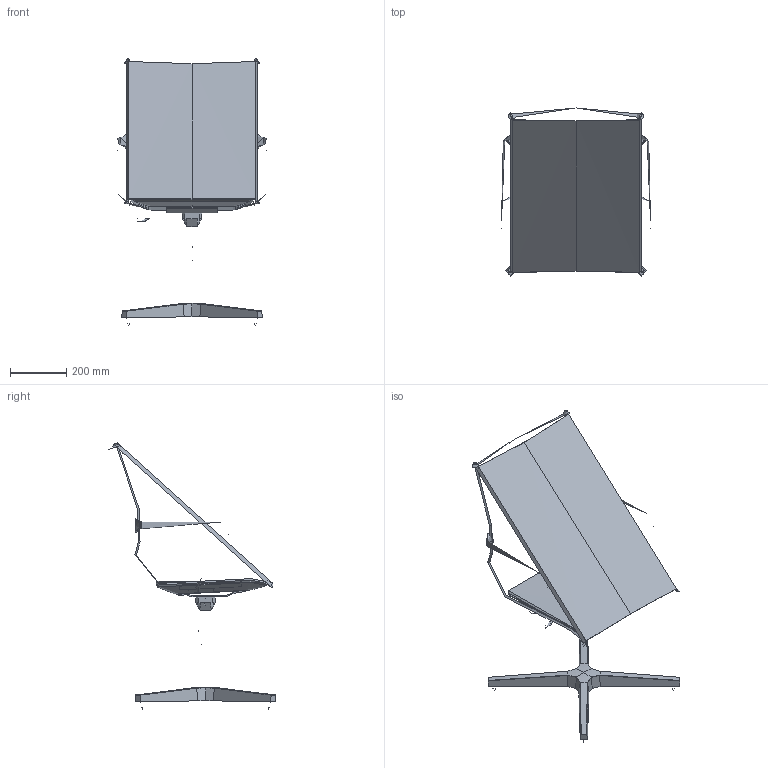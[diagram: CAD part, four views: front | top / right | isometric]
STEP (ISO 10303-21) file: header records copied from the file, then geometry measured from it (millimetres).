
FILE_DESCRIPTION(/* description */ (''),/* implementation_level */ '2;1');
FILE_NAME(/* name */ 'PL82AA~1',/* time_stamp */ '2018-04-10T15:26:07+02:00',/* author */ (''),/* organization */ (''),/* preprocessor_version */ 'ST-DEVELOPER v16.5',/* originating_system */ '',/* authorisation */ '');
FILE_SCHEMA (('AUTOMOTIVE_DESIGN'));
Length unit declared in the file: millimetre
Products named in the file (1): Document
Bounding box: 531.43 x 595.62 x 945.48 mm (x, y, z)
Volume: 7592445.3 mm3; surface area: 1505982.1 mm2
Topology: 10 solids, 31 shells, 272 faces, 677 edges, 435 vertices
Faces by surface type: bspline 189, plane 83
Entity records: 19176 total; most frequent: CARTESIAN_POINT 15147, ORIENTED_EDGE 1220, EDGE_CURVE 670, VERTEX_POINT 431, B_SPLINE_CURVE_WITH_KNOTS 397, ADVANCED_FACE 272, FACE_OUTER_BOUND 272, EDGE_LOOP 272
